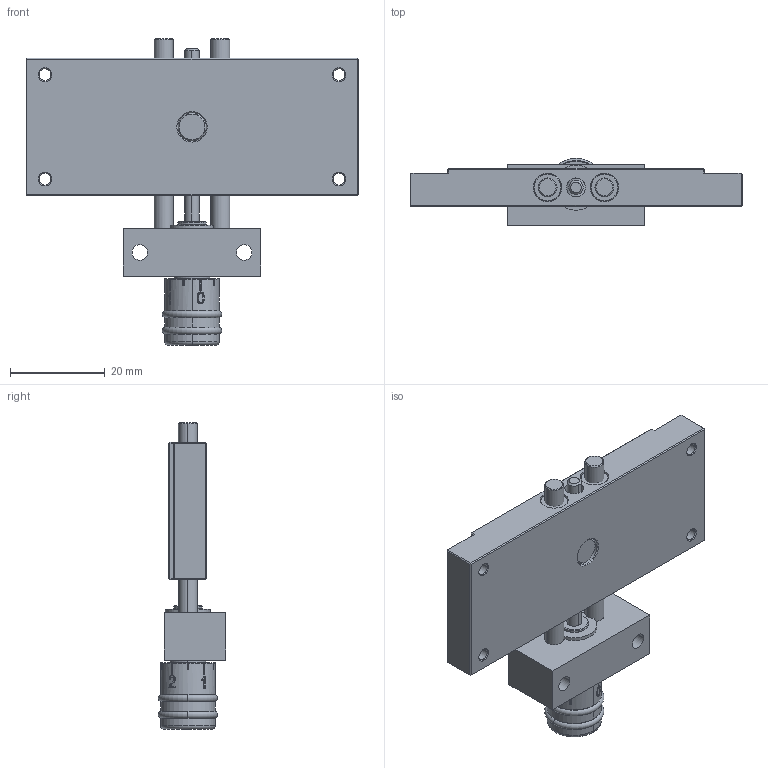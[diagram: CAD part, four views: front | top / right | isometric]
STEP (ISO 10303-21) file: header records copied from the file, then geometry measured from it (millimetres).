
FILE_DESCRIPTION (( 'STEP AP203' ), '1' );
FILE_NAME ('KT1104-L-SK-Kreuztisch.STEP', '2016-01-15T16:45:01', ( '' ), ( '' ), 'SwSTEP 2.0', 'SolidWorks 2014', '' );
FILE_SCHEMA (( 'CONFIG_CONTROL_DESIGN' ));
Length unit declared in the file: millimetre
Products named in the file (3): PT1104-000-01-Festteil; KT04-000-03-L-Schlitten-komplett; KT1104-L-SK-Kreuztisch
Assembly tree (2 placements, depth 2):
  KT1104-L-SK-Kreuztisch
    PT1104-000-01-Festteil
    KT04-000-03-L-Schlitten-komplett
Bounding box: 70 x 14.25 x 64.54 mm (x, y, z)
Volume: 20093.1 mm3; surface area: 11726.4 mm2
Topology: 2 solids, 4 shells, 410 faces, 987 edges, 622 vertices
Faces by surface type: plane 151, cylinder 116, cone 82, bspline 41, torus 18, sphere 2
Entity records: 17499 total; most frequent: CARTESIAN_POINT 7682, DIRECTION 1991, ORIENTED_EDGE 1974, EDGE_CURVE 987, AXIS2_PLACEMENT_3D 794, VERTEX_POINT 622, EDGE_LOOP 469, CIRCLE 420
